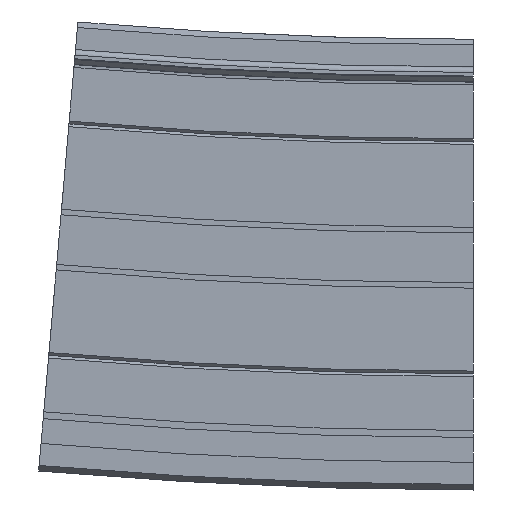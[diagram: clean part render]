
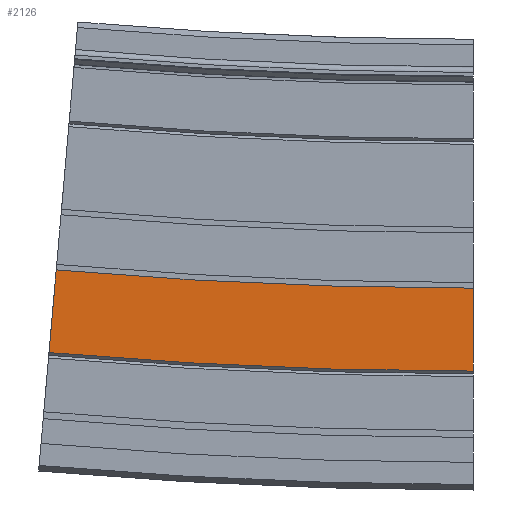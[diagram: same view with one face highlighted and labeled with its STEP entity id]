
A CAD part, left-side view. The second image highlights one B-rep face of the part: STEP entity #2126.
In plain terms, the highlighted planar face has unit normal (-1, 0, 0).
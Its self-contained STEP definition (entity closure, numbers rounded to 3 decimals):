
#214=CIRCLE('',#2314,865.5);
#215=CIRCLE('',#2316,880.5);
#325=FACE_OUTER_BOUND('',#443,.T.);
#443=EDGE_LOOP('',(#1725,#1726,#1727,#1728));
#593=LINE('',#8156,#771);
#594=LINE('',#8158,#772);
#771=VECTOR('',#2772,10.);
#772=VECTOR('',#2773,10.);
#983=VERTEX_POINT('',#8149);
#984=VERTEX_POINT('',#8151);
#985=VERTEX_POINT('',#8155);
#986=VERTEX_POINT('',#8157);
#1271=EDGE_CURVE('',#983,#984,#214,.T.);
#1272=EDGE_CURVE('',#985,#983,#593,.T.);
#1273=EDGE_CURVE('',#986,#984,#594,.T.);
#1274=EDGE_CURVE('',#985,#986,#215,.T.);
#1725=ORIENTED_EDGE('',*,*,#1272,.T.);
#1726=ORIENTED_EDGE('',*,*,#1271,.T.);
#1727=ORIENTED_EDGE('',*,*,#1273,.F.);
#1728=ORIENTED_EDGE('',*,*,#1274,.F.);
#2030=PLANE('',#2315);
#2126=ADVANCED_FACE('',(#325),#2030,.T.);
#2314=AXIS2_PLACEMENT_3D('',#8153,#2768,#2769);
#2315=AXIS2_PLACEMENT_3D('',#8154,#2770,#2771);
#2316=AXIS2_PLACEMENT_3D('',#8159,#2774,#2775);
#2768=DIRECTION('center_axis',(1.,0.,0.));
#2769=DIRECTION('ref_axis',(0.,0.,
-1.));
#2770=DIRECTION('center_axis',(-1.,0.,0.));
#2771=DIRECTION('ref_axis',(0.,0.,1.));
#2772=DIRECTION('',(0.,0.,1.));
#2773=DIRECTION('',(0.,-0.087,0.996));
#2774=DIRECTION('center_axis',(1.,0.,0.));
#2775=DIRECTION('ref_axis',(0.,0.,
-1.));
#8149=CARTESIAN_POINT('',(-112.,0.,-5.5));
#8151=CARTESIAN_POINT('',(-112.,75.433,-2.207));
#8153=CARTESIAN_POINT('Origin',(-112.,0.,
860.));
#8154=CARTESIAN_POINT('Origin',(-112.,0.,-20.5));
#8155=CARTESIAN_POINT('',(-112.,0.,-20.5));
#8156=CARTESIAN_POINT('',(-112.,0.,-20.5));
#8157=CARTESIAN_POINT('',(-112.,76.741,-17.149));
#8158=CARTESIAN_POINT('',(-112.,76.741,-17.149));
#8159=CARTESIAN_POINT('Origin',(-112.,0.,
860.));
